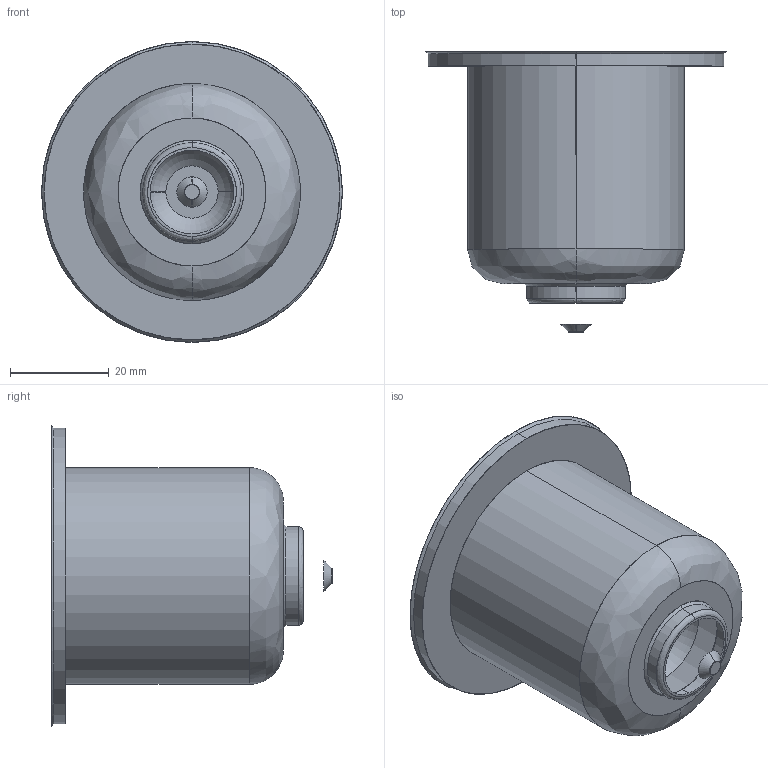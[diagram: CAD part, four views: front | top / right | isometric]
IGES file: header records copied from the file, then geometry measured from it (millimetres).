
Start section: SolidWorks IGES file using analytic representation for surfaces
Global section: file name: C:\Documents and Settings\ws-20\Desktop\TEM\Sede UGEP6002-M-A C-54 L-79 Ød-3.0.IGS; native system: SolidWorks 2012; preprocessor: SolidWorks 2012; author: ws-20; date: 120427.103403; units: millimetre
Bounding box: 61 x 57.14 x 61 mm (x, y, z)
Surface area: 12379.9 mm2 (no closed solid volume)
Topology: 0 solids, 0 shells, 25 faces, 468 edges, 468 vertices
Faces by surface type: revolution 16, bspline 9
